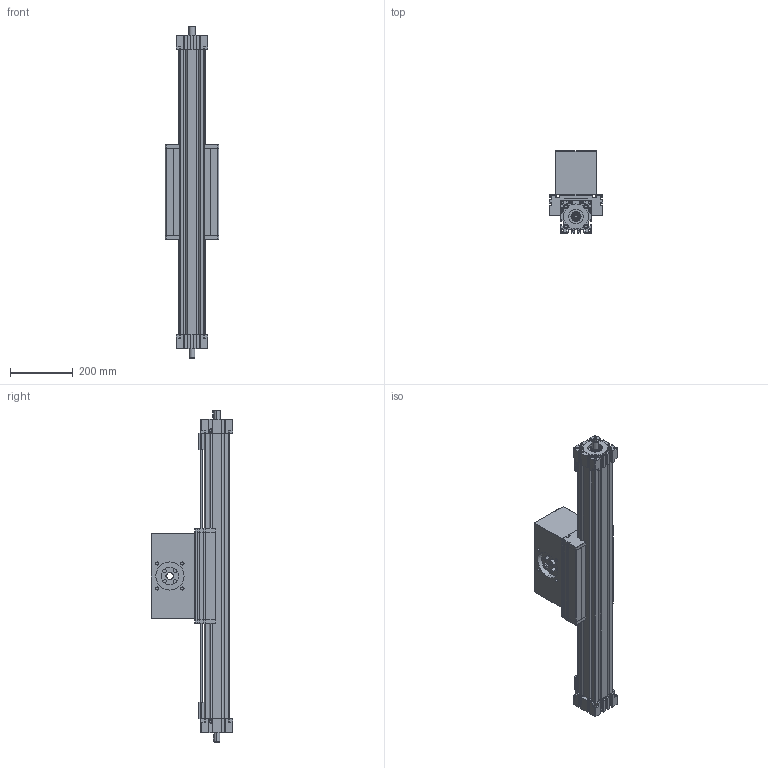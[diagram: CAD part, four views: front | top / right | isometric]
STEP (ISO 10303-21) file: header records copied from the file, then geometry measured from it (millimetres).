
FILE_DESCRIPTION (( 'STEP AP214' ), '1' );
FILE_NAME ('ELSD80 HD.STEP', '2022-12-07T12:39:04', ( '' ), ( '' ), 'SwSTEP 2.0', 'SolidWorks 2020', '' );
FILE_SCHEMA (( 'AUTOMOTIVE_DESIGN' ));
Length unit declared in the file: millimetre
Products named in the file (6): timing belt reverse unit^ELSD80 HD_coupling claw pos.1; carriage^ELSD80 HD_carriage version 0; profile^ELSD80 HD_2x guide rods; drive block^ELSD80 HD_standard; ELSD80 HD; load block^ELSD80 HD_standard
Assembly tree (5 placements, depth 2):
  ELSD80 HD
    profile^ELSD80 HD_2x guide rods
    carriage^ELSD80 HD_carriage version 0
    timing belt reverse unit^ELSD80 HD_coupling claw pos.1
    load block^ELSD80 HD_standard
    drive block^ELSD80 HD_standard
Bounding box: 170 x 261 x 1060 mm (x, y, z)
Volume: 11617297.6 mm3; surface area: 1322208.9 mm2
Topology: 14 solids, 14 shells, 1162 faces, 3157 edges, 2038 vertices
Faces by surface type: plane 770, cylinder 310, cone 46, bspline 16, sphere 12, torus 8
Entity records: 39001 total; most frequent: CARTESIAN_POINT 7083, ORIENTED_EDGE 6258, DIRECTION 6037, EDGE_CURVE 3129, LINE 2413, VECTOR 2413, VERTEX_POINT 2038, AXIS2_PLACEMENT_3D 1812
